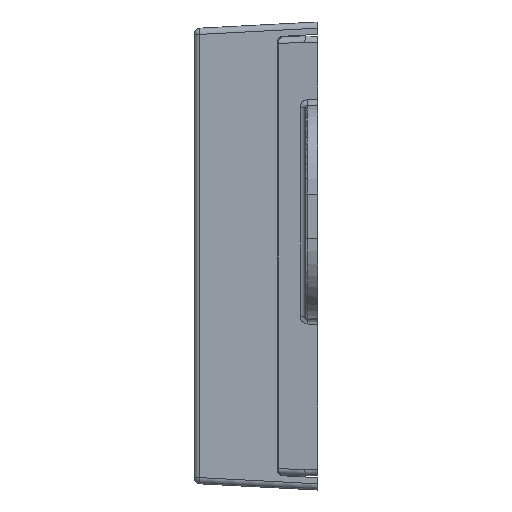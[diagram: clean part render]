
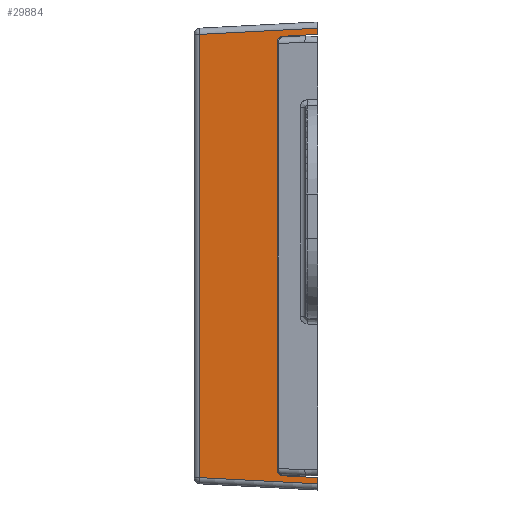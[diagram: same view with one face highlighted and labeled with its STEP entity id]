
A CAD part, left-side view. The second image highlights one B-rep face of the part: STEP entity #29884.
In plain terms, the highlighted planar face has unit normal (-0.999, 0.052, 0).
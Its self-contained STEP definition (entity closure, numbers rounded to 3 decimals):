
#10 = VERTEX_POINT ( 'NONE', #24417 ) ;
#1008 = CARTESIAN_POINT ( 'NONE',  ( -22.25, 0., 37.75 ) ) ;
#1282 = CARTESIAN_POINT ( 'NONE',  ( -22.25, 0., 37.75 ) ) ;
#1480 = DIRECTION ( 'NONE',  ( -0.999, 0.052, 0. ) ) ;
#1504 = CARTESIAN_POINT ( 'NONE',  ( -22.25, 0., 37.75 ) ) ;
#1551 = CARTESIAN_POINT ( 'NONE',  ( -21.904, 6.6, -35.404 ) ) ;
#1891 = DIRECTION ( 'NONE',  ( -0.052, -0.999, 0. ) ) ;
#2434 = VERTEX_POINT ( 'NONE', #29107 ) ;
#2684 = DIRECTION ( 'NONE',  ( 0.052, 0.997, 0.052 ) ) ;
#2824 = CARTESIAN_POINT ( 'NONE',  ( -21.904, 6.6, 34.876 ) ) ;
#3097 = CARTESIAN_POINT ( 'NONE',  ( -21.93, 6.101, 35.43 ) ) ;
#3970 = LINE ( 'NONE', #28664, #16326 ) ;
#4477 = EDGE_CURVE ( 'NONE', #10, #14097, #30406, .T. ) ;
#4820 = VECTOR ( 'NONE', #2684, 1000. ) ;
#5473 = CARTESIAN_POINT ( 'NONE',  ( -21.904, 6.6, -34.904 ) ) ;
#5692 = ORIENTED_EDGE ( 'NONE', *, *, #30214, .T. ) ;
#6452 = CARTESIAN_POINT ( 'NONE',  ( -22.046, 3.883, -36.548 ) ) ;
#8122 = EDGE_CURVE ( 'NONE', #23861, #24478, #12545, .T. ) ;
#8239 = DIRECTION ( 'NONE',  ( 0.037, 0.707, 0.707 ) ) ;
#8829 = CARTESIAN_POINT ( 'NONE',  ( -22.25, 0., -36.751 ) ) ;
#8951 = LINE ( 'NONE', #1551, #33555 ) ;
#9045 = VECTOR ( 'NONE', #22651, 1000. ) ;
#9250 = VERTEX_POINT ( 'NONE', #5473 ) ;
#9351 = CARTESIAN_POINT ( 'NONE',  ( -22.128, 2.319, -35.628 ) ) ;
#9913 = LINE ( 'NONE', #1008, #9045 ) ;
#10127 = EDGE_CURVE ( 'NONE', #14097, #9250, #33324, .T. ) ;
#10144 = CARTESIAN_POINT ( 'NONE',  ( -22.128, 2.319, 35.628 ) ) ;
#11401 = ORIENTED_EDGE ( 'NONE', *, *, #36007, .T. ) ;
#11933 = ORIENTED_EDGE ( 'NONE', *, *, #34434, .T. ) ;
#12545 = LINE ( 'NONE', #6452, #16939 ) ;
#13051 = ORIENTED_EDGE ( 'NONE', *, *, #37109, .T. ) ;
#13284 = DIRECTION ( 'NONE',  ( -0.035, -0.669, 0.743 ) ) ;
#13377 = ORIENTED_EDGE ( 'NONE', *, *, #23885, .T. ) ;
#14097 = VERTEX_POINT ( 'NONE', #35308 ) ;
#14102 = DIRECTION ( 'NONE',  ( 0., 0., 1. ) ) ;
#14454 = LINE ( 'NONE', #33674, #25243 ) ;
#15397 = EDGE_CURVE ( 'NONE', #19700, #20354, #9913, .T. ) ;
#16005 = DIRECTION ( 'NONE',  ( -0.052, -0.997, 0.052 ) ) ;
#16326 = VECTOR ( 'NONE', #13284, 1000. ) ;
#16939 = VECTOR ( 'NONE', #28118, 1000. ) ;
#18104 = VECTOR ( 'NONE', #20529, 1000. ) ;
#18428 = VECTOR ( 'NONE', #16005, 1000. ) ;
#19700 = VERTEX_POINT ( 'NONE', #31700 ) ;
#19786 = VECTOR ( 'NONE', #8239, 1000. ) ;
#19831 = EDGE_CURVE ( 'NONE', #33749, #22310, #3970, .T. ) ;
#20343 = DIRECTION ( 'NONE',  ( 0., 0., -1. ) ) ;
#20354 = VERTEX_POINT ( 'NONE', #29430 ) ;
#20529 = DIRECTION ( 'NONE',  ( 0., 0., 1. ) ) ;
#22310 = VERTEX_POINT ( 'NONE', #3097 ) ;
#22472 = LINE ( 'NONE', #10144, #18428 ) ;
#22651 = DIRECTION ( 'NONE',  ( 0., 0., 1. ) ) ;
#23322 = FACE_OUTER_BOUND ( 'NONE', #32769, .T. ) ;
#23352 = LINE ( 'NONE', #35714, #31524 ) ;
#23861 = VERTEX_POINT ( 'NONE', #38348 ) ;
#23885 = EDGE_CURVE ( 'NONE', #2434, #23861, #23352, .T. ) ;
#24417 = CARTESIAN_POINT ( 'NONE',  ( -22.25, 0., -35.75 ) ) ;
#24478 = VERTEX_POINT ( 'NONE', #8829 ) ;
#25243 = VECTOR ( 'NONE', #36492, 1000. ) ;
#27434 = AXIS2_PLACEMENT_3D ( 'NONE', #1282, #1480, #1891 ) ;
#28118 = DIRECTION ( 'NONE',  ( -0.052, -0.997, -0.052 ) ) ;
#28664 = CARTESIAN_POINT ( 'NONE',  ( -22.134, 2.213, 39.748 ) ) ;
#29107 = CARTESIAN_POINT ( 'NONE',  ( -21.252, 19.052, 35.753 ) ) ;
#29430 = CARTESIAN_POINT ( 'NONE',  ( -22.25, 0., 36.751 ) ) ;
#29615 = PLANE ( 'NONE',  #27434 ) ;
#29616 = ORIENTED_EDGE ( 'NONE', *, *, #19831, .T. ) ;
#29635 = LINE ( 'NONE', #1504, #18104 ) ;
#29884 = ADVANCED_FACE ( 'NONE', ( #23322 ), #29615, .T. ) ;
#30214 = EDGE_CURVE ( 'NONE', #22310, #19700, #22472, .T. ) ;
#30406 = LINE ( 'NONE', #9351, #4820 ) ;
#30492 = ORIENTED_EDGE ( 'NONE', *, *, #8122, .T. ) ;
#31524 = VECTOR ( 'NONE', #20343, 1000. ) ;
#31700 = CARTESIAN_POINT ( 'NONE',  ( -22.25, 0., 35.75 ) ) ;
#32769 = EDGE_LOOP ( 'NONE', ( #13377, #30492, #11401, #36674, #34514, #11933, #29616, #5692, #37698, #13051 ) ) ;
#33324 = LINE ( 'NONE', #39194, #19786 ) ;
#33555 = VECTOR ( 'NONE', #14102, 1000. ) ;
#33674 = CARTESIAN_POINT ( 'NONE',  ( -22.253, -0.052, 36.754 ) ) ;
#33749 = VERTEX_POINT ( 'NONE', #2824 ) ;
#34434 = EDGE_CURVE ( 'NONE', #9250, #33749, #8951, .T. ) ;
#34514 = ORIENTED_EDGE ( 'NONE', *, *, #10127, .T. ) ;
#35308 = CARTESIAN_POINT ( 'NONE',  ( -21.932, 6.072, -35.432 ) ) ;
#35714 = CARTESIAN_POINT ( 'NONE',  ( -21.252, 19.052, -36.702 ) ) ;
#36007 = EDGE_CURVE ( 'NONE', #24478, #10, #29635, .T. ) ;
#36492 = DIRECTION ( 'NONE',  ( 0.052, 0.997, -0.052 ) ) ;
#36674 = ORIENTED_EDGE ( 'NONE', *, *, #4477, .T. ) ;
#37109 = EDGE_CURVE ( 'NONE', #20354, #2434, #14454, .T. ) ;
#37698 = ORIENTED_EDGE ( 'NONE', *, *, #15397, .T. ) ;
#38348 = CARTESIAN_POINT ( 'NONE',  ( -21.252, 19.052, -35.753 ) ) ;
#39194 = CARTESIAN_POINT ( 'NONE',  ( -20.176, 39.573, -1.931 ) ) ;
